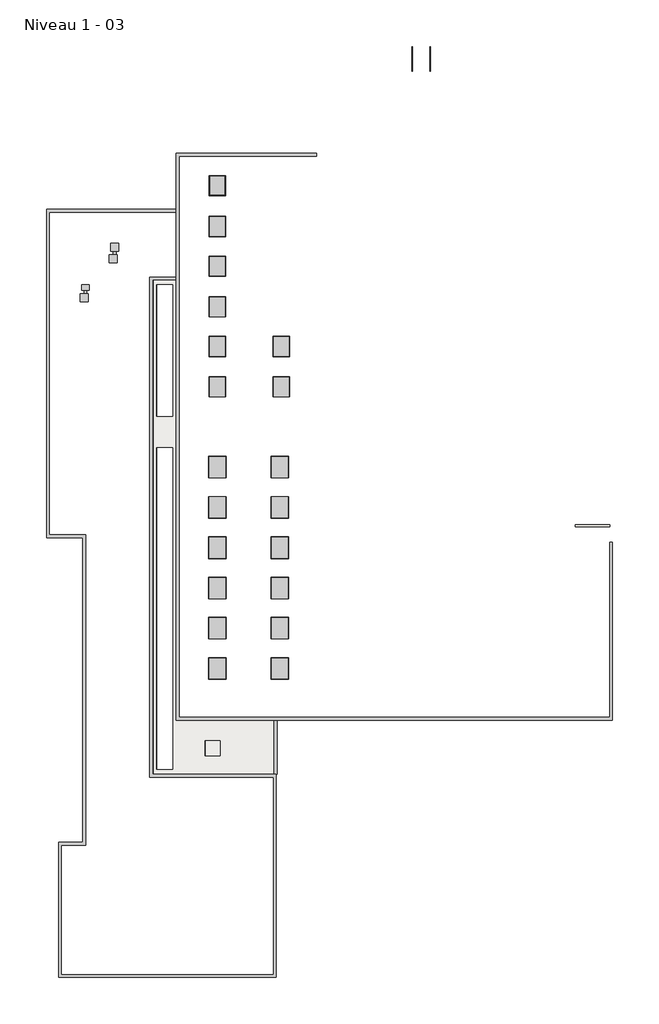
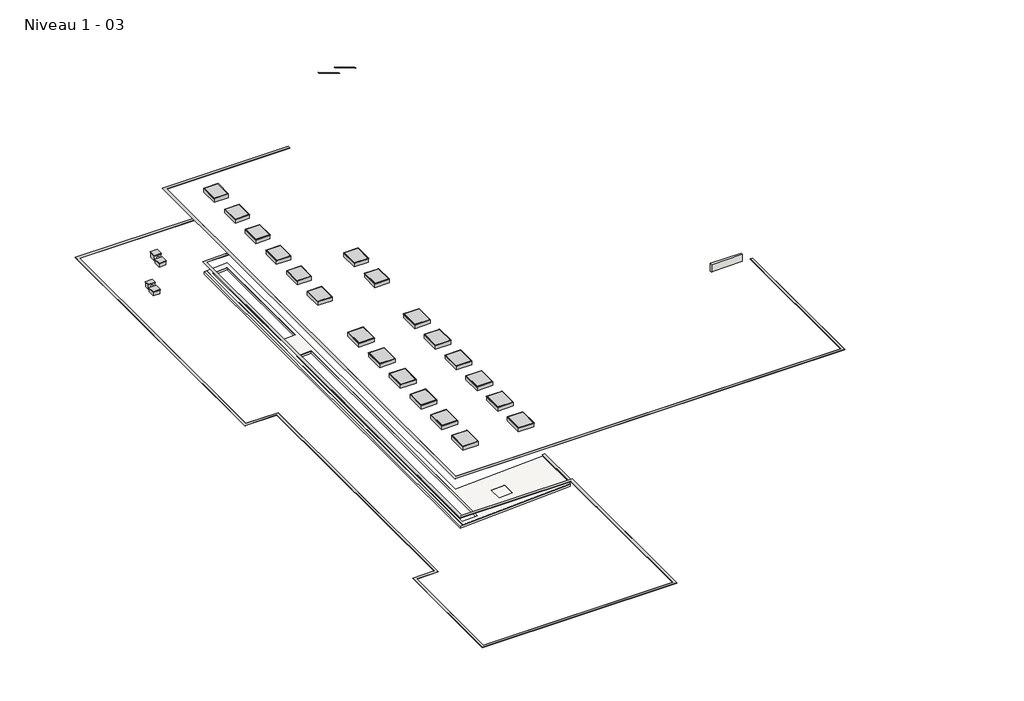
# One storey, incomplete: 22 proxies, 2 railings, 2 slabs, 1 wall.
"""IFC4 building model written with IfcOpenShell, lengths in millimetres."""

from ifc_helpers import new_model, si_unit, frame, origin, place, context, project, spatial, polyline, outline, extrude, faceted_brep, transform, mapped, element, save
from components import generic_models_6b70fe05, conduit_gaz5_6ad12e83, famille_0_famille_140x110_e096d3c4, famille_0_famille_150x120_2a5b572d, au_mur_5992ff8a, au_mur_0f0e8a53

model = new_model("IFC4")

# Units and contexts
model_context = context("Model", 3, world=origin())
ifc_project = project(units=[si_unit("LENGTHUNIT", "METRE", prefix="MILLI")], contexts=[model_context])

# Site, building, storey
site = spatial("IfcSite", under=ifc_project)
building = spatial("IfcBuilding", under=site)
storey = spatial("IfcBuildingStorey", under=building, Name="Niveau 1 - 03", Elevation=3229.8082742)

# Proxies
placement = place(None, origin())
generic_models_shape = generic_models_6b70fe05(model_context)
element("IfcBuildingElementProxy", 1, Name="Accrotère R+1 : Accrotère R+1", ObjectType="Accrotère R+1 : Accrotère R+1", at=placement, inside=storey, context=model_context, shape_type="MappedRepresentation", body=[
    mapped(generic_models_shape, transform((0.0, 0.0, 0.0), x_axis=(1.0, 0.0, 0.0), y_axis=(0.0, 1.0, 0.0), z_axis=(0.0, 0.0, 1.0))),
])
conduit_gaz5_shape = conduit_gaz5_6ad12e83(model_context)
element("IfcBuildingElementProxy", 2, Name="Conduit Gaz5 : Conduit Gaz", ObjectType="Conduit Gaz5 : Conduit Gaz", at=placement, inside=storey, context=model_context, shape_type="MappedRepresentation", body=[
    mapped(conduit_gaz5_shape, transform((0.0, 0.0, 0.0), x_axis=(1.0, 0.0, 0.0), y_axis=(0.0, 1.0, 0.0), z_axis=(0.0, 0.0, 1.0))),
])
element("IfcBuildingElementProxy", 3, Name="Famille 0 : Famille 140x110", ObjectType="Famille 0 : Famille 140x110", at=placement, inside=storey, context=model_context, shape_type="SolidModel", body=[
    faceted_brep([(-32661.5462334, 4664.2111666, 4273.3082742), (-32669.0462334, 4671.7111666, 4273.3082742), (-32669.0462334, 6171.7111666, 4273.3082742), (-32661.5462334, 6179.2111666, 4273.3082742), (-32694.0462334, 4696.7111666, 4298.4623496), (-32661.5462334, 4664.2111666, 4298.4623496), (-32661.5462334, 6179.2111666, 4298.4623496), (-32694.0462334, 6146.7111666, 4298.4623496), (-32694.0462334, 4696.7111666, 4279.2997713), (-32694.0462334, 6146.7111666, 4279.2997713), (-32719.0462334, 4721.7111666, 4279.2997713), (-32719.0462334, 6121.7111666, 4279.2997713), (-32719.0462334, 4721.7111666, 3953.3082742), (-32719.0462334, 6121.7111666, 3953.3082742), (-32669.0462334, 4671.7111666, 3953.3082742), (-32669.0462334, 6171.7111666, 3953.3082742), (-33869.0462334, 6171.7111666, 4273.3082742), (-33876.5462334, 6179.2111666, 4273.3082742), (-33876.5462334, 6179.2111666, 4298.4623496), (-33844.0462334, 6146.7111666, 4298.4623496), (-33844.0462334, 6146.7111666, 4279.2997713), (-33819.0462334, 6121.7111666, 4279.2997713), (-33819.0462334, 6121.7111666, 3953.3082742), (-33869.0462334, 6171.7111666, 3953.3082742), (-33869.0462334, 4671.7111666, 4273.3082742), (-33876.5462334, 4664.2111666, 4273.3082742), (-33876.5462334, 4664.2111666, 4298.4623496), (-33844.0462334, 4696.7111666, 4298.4623496), (-33844.0462334, 4696.7111666, 4279.2997713), (-33819.0462334, 4721.7111666, 4279.2997713), (-33819.0462334, 4721.7111666, 3953.3082742), (-33869.0462334, 4671.7111666, 3953.3082742)], [[[0, 1, 2, 3]], [[4, 5, 6, 7]], [[8, 4, 7, 9]], [[10, 8, 9, 11]], [[12, 10, 11, 13]], [[14, 12, 13, 15]], [[3, 2, 16, 17]], [[7, 6, 18, 19]], [[9, 7, 19, 20]], [[11, 9, 20, 21]], [[13, 11, 21, 22]], [[15, 13, 22, 23]], [[17, 16, 24, 25]], [[19, 18, 26, 27]], [[20, 19, 27, 28]], [[21, 20, 28, 29]], [[22, 21, 29, 30]], [[23, 22, 30, 31]], [[25, 24, 1, 0]], [[27, 26, 5, 4]], [[28, 27, 4, 8]], [[29, 28, 8, 10]], [[30, 29, 10, 12]], [[31, 30, 12, 14]], [[1, 14, 15, 2]], [[5, 0, 3, 6]], [[2, 15, 23, 16]], [[6, 3, 17, 18]], [[16, 23, 31, 24]], [[18, 17, 25, 26]], [[24, 31, 14, 1]], [[26, 25, 0, 5]]]),
    extrude(outline(polyline([(-32694.0462334, 6146.7111666), (-32694.0462334, 4696.7111666), (-33844.0462334, 4696.7111666), (-33844.0462334, 6146.7111666), (-32694.0462334, 6146.7111666)])), frame((0.0, 0.0, 4279.2997713), z_axis=(0.0, 0.0, 1.0), x_axis=(1.0, 0.0, 0.0)), (0.0, 0.0, 1.0), 19.1625783),
])
famille_0_famille_140x110_shape = famille_0_famille_140x110_e096d3c4(model_context)
element("IfcBuildingElementProxy", 4, Name="Famille 0 : Famille 140x110", ObjectType="Famille 0 : Famille 140x110", at=placement, inside=storey, context=model_context, shape_type="MappedRepresentation", body=[
    mapped(famille_0_famille_140x110_shape, transform((-28490.9246741, -6602.822974, 4003.3082742), x_axis=(0.0, 1.0, 0.0), y_axis=(-1.0, 0.0, 0.0), z_axis=(0.0, 0.0, 1.0))),
])
element("IfcBuildingElementProxy", 5, Name="Famille 0 : Famille 140x110", ObjectType="Famille 0 : Famille 140x110", at=placement, inside=storey, context=model_context, shape_type="MappedRepresentation", body=[
    mapped(famille_0_famille_140x110_shape, transform((-28490.9246741, -9607.822974, 4003.3082742), x_axis=(0.0, 1.0, 0.0), y_axis=(-1.0, 0.0, 0.0), z_axis=(0.0, 0.0, 1.0))),
])
element("IfcBuildingElementProxy", 6, Name="Famille 0 : Famille 140x110", ObjectType="Famille 0 : Famille 140x110", at=placement, inside=storey, context=model_context, shape_type="MappedRepresentation", body=[
    mapped(famille_0_famille_140x110_shape, transform((-33269.0462334, 2372.177026, 4103.3082742), x_axis=(0.0, 1.0, 0.0), y_axis=(-1.0, 0.0, 0.0), z_axis=(0.0, 0.0, 1.0))),
])
element("IfcBuildingElementProxy", 7, Name="Famille 0 : Famille 140x110", ObjectType="Famille 0 : Famille 140x110", at=placement, inside=storey, context=model_context, shape_type="MappedRepresentation", body=[
    mapped(famille_0_famille_140x110_shape, transform((-33269.0462334, -597.3571147, 4103.3082742), x_axis=(0.0, 1.0, 0.0), y_axis=(-1.0, 0.0, 0.0), z_axis=(0.0, 0.0, 1.0))),
])
element("IfcBuildingElementProxy", 8, Name="Famille 0 : Famille 140x110", ObjectType="Famille 0 : Famille 140x110", at=placement, inside=storey, context=model_context, shape_type="MappedRepresentation", body=[
    mapped(famille_0_famille_140x110_shape, transform((-33269.0462334, -3626.8912553, 4103.3082742), x_axis=(0.0, 1.0, 0.0), y_axis=(-1.0, 0.0, 0.0), z_axis=(0.0, 0.0, 1.0))),
])
element("IfcBuildingElementProxy", 9, Name="Famille 0 : Famille 140x110", ObjectType="Famille 0 : Famille 140x110", at=placement, inside=storey, context=model_context, shape_type="MappedRepresentation", body=[
    mapped(famille_0_famille_140x110_shape, transform((-33269.0462334, -6602.822974, 4103.3082742), x_axis=(0.0, 1.0, 0.0), y_axis=(-1.0, 0.0, 0.0), z_axis=(0.0, 0.0, 1.0))),
])
element("IfcBuildingElementProxy", 10, Name="Famille 0 : Famille 140x110", ObjectType="Famille 0 : Famille 140x110", at=placement, inside=storey, context=model_context, shape_type="MappedRepresentation", body=[
    mapped(famille_0_famille_140x110_shape, transform((-33269.0462334, -9607.822974, 4103.3082742), x_axis=(0.0, 1.0, 0.0), y_axis=(-1.0, 0.0, 0.0), z_axis=(0.0, 0.0, 1.0))),
])
famille_0_famille_150x120_shape = famille_0_famille_150x120_2a5b572d(model_context)
element("IfcBuildingElementProxy", 11, Name="Famille 0 : Famille 150x120", ObjectType="Famille 0 : Famille 150x120", at=placement, inside=storey, context=model_context, shape_type="MappedRepresentation", body=[
    mapped(famille_0_famille_150x120_shape, transform((-33269.0462334, -30647.822974, 4103.3082742), x_axis=(0.0, 1.0, 0.0), y_axis=(-1.0, 0.0, 0.0), z_axis=(0.0, 0.0, 1.0))),
])
element("IfcBuildingElementProxy", 12, Name="Famille 0 : Famille 150x120", ObjectType="Famille 0 : Famille 150x120", at=placement, inside=storey, context=model_context, shape_type="MappedRepresentation", body=[
    mapped(famille_0_famille_150x120_shape, transform((-28610.9246741, -15607.822974, 4103.3082742), x_axis=(0.0, 1.0, 0.0), y_axis=(-1.0, 0.0, 0.0), z_axis=(0.0, 0.0, 1.0))),
])
element("IfcBuildingElementProxy", 13, Name="Famille 0 : Famille 150x120", ObjectType="Famille 0 : Famille 150x120", at=placement, inside=storey, context=model_context, shape_type="MappedRepresentation", body=[
    mapped(famille_0_famille_150x120_shape, transform((-28610.9246741, -18607.822974, 4103.3082742), x_axis=(0.0, 1.0, 0.0), y_axis=(-1.0, 0.0, 0.0), z_axis=(0.0, 0.0, 1.0))),
])
element("IfcBuildingElementProxy", 14, Name="Famille 0 : Famille 150x120", ObjectType="Famille 0 : Famille 150x120", at=placement, inside=storey, context=model_context, shape_type="MappedRepresentation", body=[
    mapped(famille_0_famille_150x120_shape, transform((-28610.9246741, -21627.822974, 4103.3082742), x_axis=(0.0, 1.0, 0.0), y_axis=(-1.0, 0.0, 0.0), z_axis=(0.0, 0.0, 1.0))),
])
element("IfcBuildingElementProxy", 15, Name="Famille 0 : Famille 150x120", ObjectType="Famille 0 : Famille 150x120", at=placement, inside=storey, context=model_context, shape_type="MappedRepresentation", body=[
    mapped(famille_0_famille_150x120_shape, transform((-28610.9246741, -24647.822974, 4103.3082742), x_axis=(0.0, 1.0, 0.0), y_axis=(-1.0, 0.0, 0.0), z_axis=(0.0, 0.0, 1.0))),
])
element("IfcBuildingElementProxy", 16, Name="Famille 0 : Famille 150x120", ObjectType="Famille 0 : Famille 150x120", at=placement, inside=storey, context=model_context, shape_type="MappedRepresentation", body=[
    mapped(famille_0_famille_150x120_shape, transform((-28610.9246741, -27637.822974, 4103.3082742), x_axis=(0.0, 1.0, 0.0), y_axis=(-1.0, 0.0, 0.0), z_axis=(0.0, 0.0, 1.0))),
])
element("IfcBuildingElementProxy", 17, Name="Famille 0 : Famille 150x120", ObjectType="Famille 0 : Famille 150x120", at=placement, inside=storey, context=model_context, shape_type="MappedRepresentation", body=[
    mapped(famille_0_famille_150x120_shape, transform((-28610.9246741, -30647.822974, 4103.3082742), x_axis=(0.0, 1.0, 0.0), y_axis=(-1.0, 0.0, 0.0), z_axis=(0.0, 0.0, 1.0))),
])
element("IfcBuildingElementProxy", 18, Name="Famille 0 : Famille 150x120", ObjectType="Famille 0 : Famille 150x120", at=placement, inside=storey, context=model_context, shape_type="MappedRepresentation", body=[
    mapped(famille_0_famille_150x120_shape, transform((-33269.0462334, -15607.822974, 4103.3082742), x_axis=(0.0, 1.0, 0.0), y_axis=(-1.0, 0.0, 0.0), z_axis=(0.0, 0.0, 1.0))),
])
element("IfcBuildingElementProxy", 19, Name="Famille 0 : Famille 150x120", ObjectType="Famille 0 : Famille 150x120", at=placement, inside=storey, context=model_context, shape_type="MappedRepresentation", body=[
    mapped(famille_0_famille_150x120_shape, transform((-33269.0462334, -18607.822974, 4103.3082742), x_axis=(0.0, 1.0, 0.0), y_axis=(-1.0, 0.0, 0.0), z_axis=(0.0, 0.0, 1.0))),
])
element("IfcBuildingElementProxy", 20, Name="Famille 0 : Famille 150x120", ObjectType="Famille 0 : Famille 150x120", at=placement, inside=storey, context=model_context, shape_type="MappedRepresentation", body=[
    mapped(famille_0_famille_150x120_shape, transform((-33269.0462334, -21627.822974, 4103.3082742), x_axis=(0.0, 1.0, 0.0), y_axis=(-1.0, 0.0, 0.0), z_axis=(0.0, 0.0, 1.0))),
])
element("IfcBuildingElementProxy", 21, Name="Famille 0 : Famille 150x120", ObjectType="Famille 0 : Famille 150x120", at=placement, inside=storey, context=model_context, shape_type="MappedRepresentation", body=[
    mapped(famille_0_famille_150x120_shape, transform((-33269.0462334, -24647.822974, 4103.3082742), x_axis=(0.0, 1.0, 0.0), y_axis=(-1.0, 0.0, 0.0), z_axis=(0.0, 0.0, 1.0))),
])
element("IfcBuildingElementProxy", 22, Name="Famille 0 : Famille 150x120", ObjectType="Famille 0 : Famille 150x120", at=placement, inside=storey, context=model_context, shape_type="MappedRepresentation", body=[
    mapped(famille_0_famille_150x120_shape, transform((-33269.0462334, -27637.822974, 4103.3082742), x_axis=(0.0, 1.0, 0.0), y_axis=(-1.0, 0.0, 0.0), z_axis=(0.0, 0.0, 1.0))),
])

# Railings
au_mur_shape = au_mur_5992ff8a(model_context)
element("IfcRailing", 23, ObjectType="Au Mur", at=placement, inside=storey, context=model_context, shape_type="MappedRepresentation", body=[
    mapped(au_mur_shape, transform((0.0, 0.0, 0.0), x_axis=(1.0, 0.0, 0.0), y_axis=(0.0, 1.0, 0.0), z_axis=(0.0, 0.0, 1.0))),
])
au_mur_2_shape = au_mur_0f0e8a53(model_context)
element("IfcRailing", 24, ObjectType="Au Mur", at=placement, inside=storey, context=model_context, shape_type="MappedRepresentation", body=[
    mapped(au_mur_2_shape, transform((0.0, 0.0, 0.0), x_axis=(1.0, 0.0, 0.0), y_axis=(0.0, 1.0, 0.0), z_axis=(0.0, 0.0, 1.0))),
])

# Slabs
element("IfcSlab", 25, ObjectType="Dalle béton 200mm", at=placement, inside=storey, context=model_context, shape_type="Brep", body=[
    faceted_brep([(-38243.9891749, -1481.0175877, 2873.1823822), (-38043.9891749, -1481.0175877, 2883.6639381), (-36343.9891745, -1481.0175877, 2972.7571629), (-36343.9891745, -34509.054307, 2972.7571629), (-29023.0967815, -34509.054307, 3356.4288756), (-29023.0967815, -38559.0543071, 3356.4288756), (-38043.9891749, -38559.0543071, 2883.6639381), (-38243.9891749, -38559.0543071, 2873.1823822), (-37844.6862134, -11833.5, 2894.1089637), (-36583.9891766, -11833.5, 2960.1792957), (-36583.9891766, -1979.9365726, 2960.1792957), (-37844.6862134, -1979.9365726, 2894.1089637), (-36605.5266277, -14130.926123, 2959.0505657), (-37844.2882697, -14130.926123, 2894.129819), (-37844.2882697, -38171.3426608, 2894.129819), (-36605.5266277, -38171.3426608, 2959.0505657), (-38243.9891749, -1481.0175877, 3073.4568514), (-38243.9891749, -38559.0543071, 3073.4568514), (-38043.9891749, -38559.0543071, 3083.9384073), (-29023.0967815, -38559.0543071, 3556.7033448), (-29023.0967815, -34509.054307, 3556.7033448), (-36293.9891756, -34509.054307, 3175.652021), (-36343.9891745, -34509.054307, 3173.0316321), (-36343.9891745, -1481.0175877, 3173.0316321), (-38043.9891749, -1481.0175877, 3083.9384073), (-36583.9891766, -11833.5, 3160.4537649), (-37844.6862134, -11833.5, 3094.3834329), (-37844.6862134, -1979.9365726, 3094.3834329), (-36583.9891766, -1979.9365726, 3160.4537649), (-37844.2882697, -14130.926123, 3094.4042882), (-36605.5266277, -14130.926123, 3159.3250349), (-36605.5266277, -14149.192702, 3159.3250349), (-36605.5266277, -38171.3426608, 3159.3250349), (-37822.5825058, -38171.3426608, 3095.5418391), (-37844.2882697, -38171.3426608, 3094.4042882)], [[[0, 1, 2, 3, 4, 5, 6, 7], [8, 9, 10, 11], [12, 13, 14, 15]], [[16, 17, 18, 19, 20, 21, 22, 23, 24], [25, 26, 27, 28], [29, 30, 31, 32, 33, 34]], [[2, 1, 0, 16, 24, 23]], [[0, 7, 17, 16]], [[7, 6, 5, 19, 18, 17]], [[3, 2, 23, 22]], [[4, 3, 22, 21, 20]], [[5, 4, 20, 19]], [[9, 8, 26, 25]], [[10, 9, 25, 28]], [[11, 10, 28, 27]], [[8, 11, 27, 26]], [[13, 12, 30, 29]], [[14, 13, 29, 34]], [[15, 14, 34, 33, 32]], [[12, 15, 32, 31, 30]]]),
])
element("IfcSlab", 26, ObjectType="étanchéité terrasse 25mm", at=placement, inside=storey, context=model_context, shape_type="Brep", body=[
    faceted_brep([(-38043.9891749, -1481.0175877, 3083.9384073), (-36343.9891745, -1481.0175877, 3173.0316321), (-36293.9891756, -1481.0175877, 3175.652021), (-36293.9891756, -34509.054307, 3175.652021), (-29023.0967815, -34509.054307, 3556.7033448), (-29023.0967815, -38559.0543071, 3556.7033448), (-38043.9891749, -38559.0543071, 3083.9384073), (-34179.0458982, -37154.322974, 3286.4915015), (-33080.5534099, -37154.322974, 3344.0610533), (-33080.5534099, -36054.322974, 3344.0610533), (-34179.0458982, -36054.322974, 3286.4915015), (-36602.0574884, -38171.392702, 3159.5068448), (-36602.0574884, -14149.192702, 3159.5068448), (-37822.5825058, -14149.192702, 3095.5418391), (-37822.5825058, -38171.392702, 3095.5418391), (-36603.2974446, -11819.6, 3159.4418615), (-36603.2974446, -1997.4, 3159.4418615), (-37823.8224619, -1997.4, 3095.4768558), (-37823.8224619, -11819.6, 3095.4768558), (-36293.9891756, -1481.0175877, 3200.6863296), (-38043.9891749, -1481.0175877, 3108.9727159), (-38043.9891749, -38559.0543071, 3108.9727159), (-29023.0967815, -38559.0543071, 3581.7376534), (-29023.0967815, -34509.054307, 3581.7376534), (-36293.9891756, -34509.054307, 3200.6863296), (-33081.8618088, -37154.322974, 3369.0267917), (-34180.3542971, -37154.322974, 3311.4572398), (-34180.3542971, -36054.322974, 3311.4572398), (-33081.8618088, -36054.322974, 3369.0267917), (-36603.3658873, -14149.192702, 3184.4725832), (-36603.3658873, -38171.392702, 3184.4725832), (-37823.8909047, -38171.392702, 3120.5075775), (-37823.8909047, -14149.192702, 3120.5075775), (-36604.6058435, -1997.4, 3184.4075999), (-36604.6058435, -11819.6, 3184.4075999), (-37825.1308608, -11819.6, 3120.4425941), (-37825.1308608, -1997.4, 3120.4425941)], [[[0, 1, 2, 3, 4, 5, 6], [7, 8, 9, 10], [11, 12, 13, 14], [15, 16, 17, 18]], [[19, 20, 21, 22, 23, 24], [25, 26, 27, 28], [29, 30, 31, 32], [33, 34, 35, 36]], [[2, 1, 0, 20, 19]], [[0, 6, 21, 20]], [[6, 5, 22, 21]], [[3, 2, 19, 24]], [[4, 3, 24, 23]], [[5, 4, 23, 22]], [[25, 8, 7, 26]], [[26, 7, 10, 27]], [[27, 10, 9, 28]], [[8, 25, 28, 9]], [[11, 30, 29, 12]], [[12, 29, 32, 13]], [[13, 32, 31, 14]], [[30, 11, 14, 31]], [[15, 34, 33, 16]], [[16, 33, 36, 17]], [[17, 36, 35, 18]], [[34, 15, 18, 35]]]),
])

# Wall
element("IfcWall", 27, ObjectType="@_Générique - Int. 150 mm", at=placement, inside=storey, context=model_context, shape_type="Brep", body=[
    faceted_brep([(-3943.9891777, -20050.1709526, 3871.8727639), (-6531.0863322, -20050.1709526, 3871.8727639), (-6531.0863322, -20050.1709526, 3200.0), (-6506.0863322, -20050.1709526, 3200.0), (-6506.0863322, -20050.1709526, 3243.3082742), (-3943.9891777, -20050.1709526, 3243.3082742), (-6531.0863322, -19900.1709526, 3871.8727639), (-3943.9891777, -19900.1709526, 3871.8727639), (-3943.9891777, -19900.1709526, 3653.3082742), (-3943.9891777, -19900.1709526, 3243.3082742), (-6506.0863322, -19900.1709526, 3243.3082742), (-6506.0863322, -19900.1709526, 3200.0), (-6531.0863322, -19900.1709526, 3200.0), (-3943.9891777, -19975.1709526, 3871.8727639)], [[[0, 1, 2, 3, 4, 5]], [[6, 7, 8, 9, 10, 11, 12]], [[2, 12, 11, 3]], [[1, 0, 13, 7, 6]], [[4, 10, 9, 5]], [[10, 4, 3, 11]], [[2, 1, 6, 12]], [[7, 13, 0, 5, 9, 8]]]),
])

save(model, "model.ifc")
